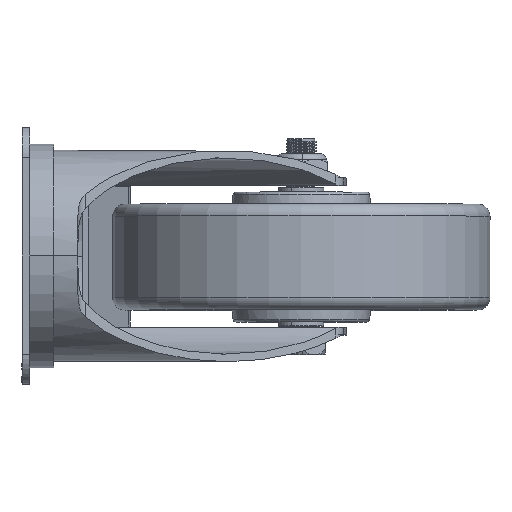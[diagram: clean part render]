
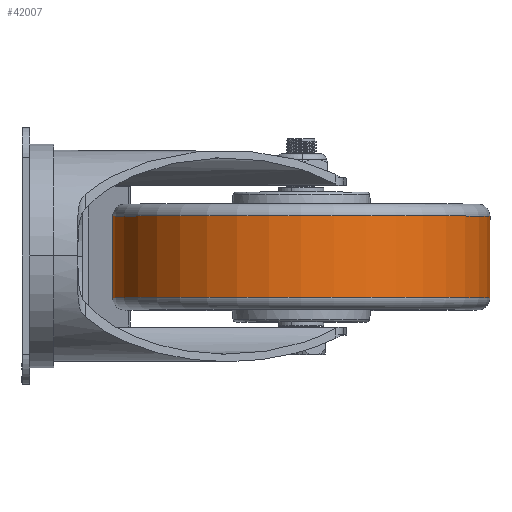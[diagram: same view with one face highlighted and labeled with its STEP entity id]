
A CAD part, left-side view. The second image highlights one B-rep face of the part: STEP entity #42007.
In plain terms, the highlighted cylindrical face has radius 62.5 mm (diameter 125 mm), a partial arc.
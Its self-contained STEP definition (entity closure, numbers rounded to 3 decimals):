
#285 = DIRECTION ( 'NONE',  ( 0., 0., -1. ) ) ;
#1174 = CARTESIAN_POINT ( 'NONE',  ( 0., -13.5, -62.5 ) ) ;
#2131 = AXIS2_PLACEMENT_3D ( 'NONE', #23406, #48032, #285 ) ;
#3706 = DIRECTION ( 'NONE',  ( 0., -1., 0. ) ) ;
#4805 = EDGE_CURVE ( 'NONE', #44782, #32919, #40920, .T. ) ;
#5797 = CARTESIAN_POINT ( 'NONE',  ( 0., -13.5, 62.5 ) ) ;
#6147 = DIRECTION ( 'NONE',  ( 0., -1., 0. ) ) ;
#6779 = ORIENTED_EDGE ( 'NONE', *, *, #20774, .T. ) ;
#7039 = EDGE_CURVE ( 'NONE', #44782, #50760, #17830, .T. ) ;
#13902 = CARTESIAN_POINT ( 'NONE',  ( 0., 13.5, 0. ) ) ;
#14864 = EDGE_LOOP ( 'NONE', ( #22459, #28174, #6779, #32334 ) ) ;
#15659 = CARTESIAN_POINT ( 'NONE',  ( 0., 0., -62.5 ) ) ;
#17830 = CIRCLE ( 'NONE', #33665, 62.5 ) ;
#20461 = CARTESIAN_POINT ( 'NONE',  ( 0., 0., 62.5 ) ) ;
#20774 = EDGE_CURVE ( 'NONE', #50760, #39825, #30719, .T. ) ;
#21990 = DIRECTION ( 'NONE',  ( 0., 0., -1. ) ) ;
#22459 = ORIENTED_EDGE ( 'NONE', *, *, #4805, .F. ) ;
#23406 = CARTESIAN_POINT ( 'NONE',  ( 0., 0., 0. ) ) ;
#27782 = CIRCLE ( 'NONE', #42716, 62.5 ) ;
#28174 = ORIENTED_EDGE ( 'NONE', *, *, #7039, .T. ) ;
#29442 = DIRECTION ( 'NONE',  ( 0., -1., 0. ) ) ;
#30719 = LINE ( 'NONE', #15659, #31012 ) ;
#31012 = VECTOR ( 'NONE', #3706, 1000. ) ;
#32208 = CYLINDRICAL_SURFACE ( 'NONE', #2131, 62.5 ) ;
#32334 = ORIENTED_EDGE ( 'NONE', *, *, #44454, .F. ) ;
#32899 = DIRECTION ( 'NONE',  ( 0., -1., 0. ) ) ;
#32919 = VERTEX_POINT ( 'NONE', #5797 ) ;
#33665 = AXIS2_PLACEMENT_3D ( 'NONE', #13902, #29442, #45283 ) ;
#36109 = FACE_OUTER_BOUND ( 'NONE', #14864, .T. ) ;
#39400 = CARTESIAN_POINT ( 'NONE',  ( 0., 13.5, -62.5 ) ) ;
#39825 = VERTEX_POINT ( 'NONE', #1174 ) ;
#40920 = LINE ( 'NONE', #20461, #48472 ) ;
#41694 = CARTESIAN_POINT ( 'NONE',  ( 0., -13.5, 0. ) ) ;
#41891 = CARTESIAN_POINT ( 'NONE',  ( 0., 13.5, 62.5 ) ) ;
#42007 = ADVANCED_FACE ( 'NONE', ( #36109 ), #32208, .T. ) ;
#42716 = AXIS2_PLACEMENT_3D ( 'NONE', #41694, #6147, #21990 ) ;
#44454 = EDGE_CURVE ( 'NONE', #32919, #39825, #27782, .T. ) ;
#44782 = VERTEX_POINT ( 'NONE', #41891 ) ;
#45283 = DIRECTION ( 'NONE',  ( 0., 0., -1. ) ) ;
#48032 = DIRECTION ( 'NONE',  ( 0., -1., 0. ) ) ;
#48472 = VECTOR ( 'NONE', #32899, 1000. ) ;
#50760 = VERTEX_POINT ( 'NONE', #39400 ) ;
